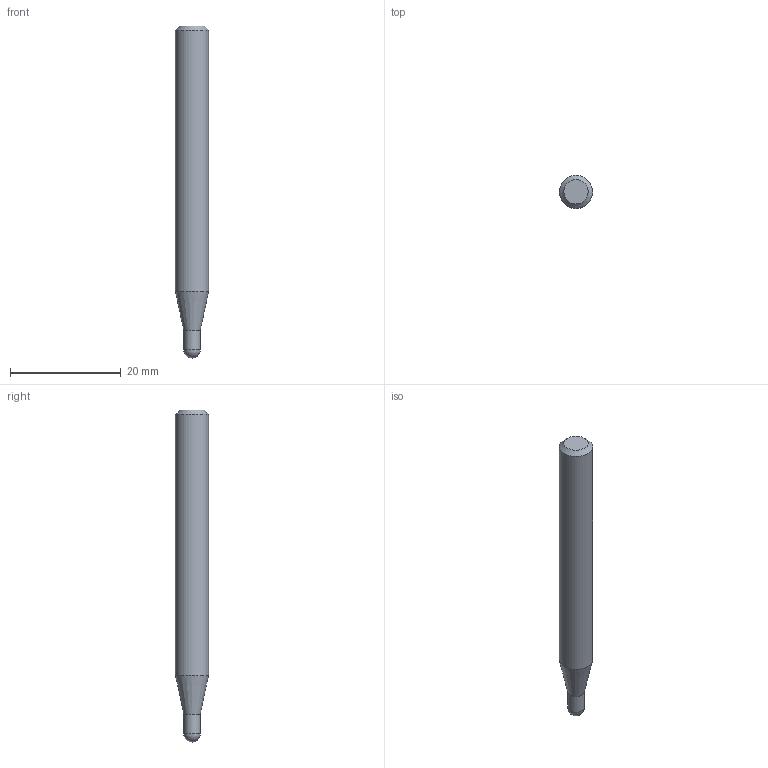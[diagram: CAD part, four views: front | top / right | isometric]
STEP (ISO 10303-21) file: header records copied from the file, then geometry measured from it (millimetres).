
FILE_DESCRIPTION((''),'2;1');
FILE_NAME('C:\Users\nsx150\AppData\Local\Temp\Mastercam 2021\98T1Q6BTT1\TEMP.step','2021-10-21T14:55:28',(''),(''),'STEP Write','Mastercam 2021 ... CNC Software, Inc.','');
FILE_SCHEMA(('AUTOMOTIVE_DESIGN'));
Length unit declared in the file: millimetre
Products named in the file (1): None
Bounding box: 6 x 6 x 60 mm (x, y, z)
Volume: 1498.3 mm3; surface area: 1085.6 mm2
Topology: 2 solids, 2 shells, 8 faces, 12 edges, 7 vertices
Faces by surface type: plane 3, cylinder 2, cone 2, sphere 1
Full cylindrical faces by diameter (mm): 3 x1, 6 x1
Entity records: 190 total; most frequent: DIRECTION 32, CARTESIAN_POINT 22, AXIS2_PLACEMENT_3D 16, ORIENTED_EDGE 12, EDGE_LOOP 12, STYLED_ITEM 11, ADVANCED_FACE 8, VERTEX_POINT 6
